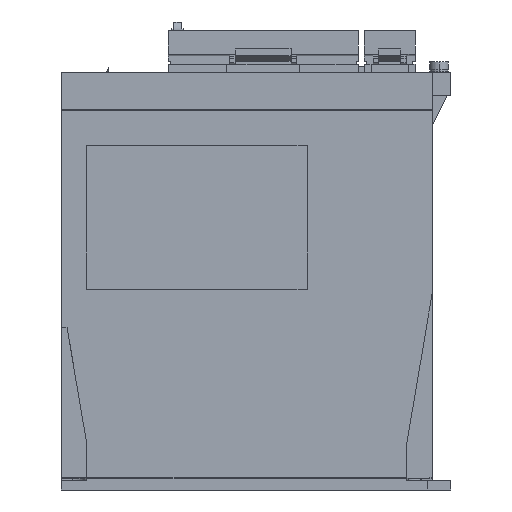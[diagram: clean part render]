
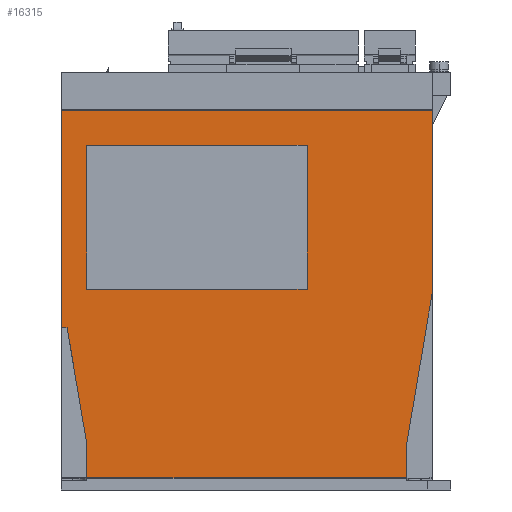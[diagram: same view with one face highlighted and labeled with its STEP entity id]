
A CAD part, left-side view. The second image highlights one B-rep face of the part: STEP entity #16315.
In plain terms, the highlighted planar face has unit normal (-1, 0, 0).
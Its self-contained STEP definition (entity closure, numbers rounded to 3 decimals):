
#13022 = VERTEX_POINT ( 'NONE', #40941 ) ;
#13050 = VERTEX_POINT ( 'NONE', #40966 ) ;
#13054 = EDGE_CURVE ( 'NONE', #13022, #13050, #41024, .T. ) ;
#16305 = VERTEX_POINT ( 'NONE', #46358 ) ;
#16315 = ADVANCED_FACE ( 'NONE', ( #46408, #46407 ), #46406, .F. ) ;
#16317 = EDGE_LOOP ( 'NONE', ( #16320, #16327, #16332, #16367 ) ) ;
#16320 = ORIENTED_EDGE ( 'NONE', *, *, #16322, .F. ) ;
#16322 = EDGE_CURVE ( 'NONE', #16323, #16325, #46391, .T. ) ;
#16323 = VERTEX_POINT ( 'NONE', #46387 ) ;
#16325 = VERTEX_POINT ( 'NONE', #46386 ) ;
#16327 = ORIENTED_EDGE ( 'NONE', *, *, #16328, .F. ) ;
#16328 = EDGE_CURVE ( 'NONE', #16330, #16323, #46385, .T. ) ;
#16330 = VERTEX_POINT ( 'NONE', #46381 ) ;
#16332 = ORIENTED_EDGE ( 'NONE', *, *, #16363, .F. ) ;
#16338 = VERTEX_POINT ( 'NONE', #46430 ) ;
#16341 = EDGE_CURVE ( 'NONE', #16338, #16343, #46429, .T. ) ;
#16343 = VERTEX_POINT ( 'NONE', #46425 ) ;
#16348 = ORIENTED_EDGE ( 'NONE', *, *, #16350, .T. ) ;
#16350 = EDGE_CURVE ( 'NONE', #16425, #16343, #46419, .T. ) ;
#16353 = ORIENTED_EDGE ( 'NONE', *, *, #16341, .F. ) ;
#16355 = ORIENTED_EDGE ( 'NONE', *, *, #16358, .F. ) ;
#16358 = EDGE_CURVE ( 'NONE', #13022, #16338, #46471, .T. ) ;
#16363 = EDGE_CURVE ( 'NONE', #16365, #16330, #46456, .T. ) ;
#16365 = VERTEX_POINT ( 'NONE', #46452 ) ;
#16367 = ORIENTED_EDGE ( 'NONE', *, *, #16370, .F. ) ;
#16370 = EDGE_CURVE ( 'NONE', #16325, #16365, #46507, .T. ) ;
#16371 = EDGE_LOOP ( 'NONE', ( #16373, #16375, #16381, #16386, #16416, #16422, #16348, #16353, #16355 ) ) ;
#16373 = ORIENTED_EDGE ( 'NONE', *, *, #13054, .T. ) ;
#16375 = ORIENTED_EDGE ( 'NONE', *, *, #16377, .T. ) ;
#16377 = EDGE_CURVE ( 'NONE', #13050, #16379, #46503, .T. ) ;
#16379 = VERTEX_POINT ( 'NONE', #46495 ) ;
#16381 = ORIENTED_EDGE ( 'NONE', *, *, #16383, .F. ) ;
#16383 = EDGE_CURVE ( 'NONE', #16385, #16379, #46488, .T. ) ;
#16385 = VERTEX_POINT ( 'NONE', #46484 ) ;
#16386 = ORIENTED_EDGE ( 'NONE', *, *, #16388, .T. ) ;
#16388 = EDGE_CURVE ( 'NONE', #16385, #16305, #46483, .T. ) ;
#16416 = ORIENTED_EDGE ( 'NONE', *, *, #16418, .T. ) ;
#16418 = EDGE_CURVE ( 'NONE', #16305, #16419, #46562, .T. ) ;
#16419 = VERTEX_POINT ( 'NONE', #46558 ) ;
#16422 = ORIENTED_EDGE ( 'NONE', *, *, #16424, .F. ) ;
#16424 = EDGE_CURVE ( 'NONE', #16425, #16419, #46551, .T. ) ;
#16425 = VERTEX_POINT ( 'NONE', #46547 ) ;
#40941 = CARTESIAN_POINT ( 'NONE',  ( -6., 5., 163.8 ) ) ;
#40966 = CARTESIAN_POINT ( 'NONE',  ( -6., 5., 70. ) ) ;
#41021 = DIRECTION ( 'NONE',  ( 0., 0., -1. ) ) ;
#41022 = VECTOR ( 'NONE', #41021, 1000. ) ;
#41023 = CARTESIAN_POINT ( 'NONE',  ( -6., 5., 338.642 ) ) ;
#41024 = LINE ( 'NONE', #41023, #41022 ) ;
#46358 = CARTESIAN_POINT ( 'NONE',  ( -6., -6., 5.2 ) ) ;
#46381 = CARTESIAN_POINT ( 'NONE',  ( -6., -6., 86.6 ) ) ;
#46382 = DIRECTION ( 'NONE',  ( 0., -1., 0. ) ) ;
#46383 = VECTOR ( 'NONE', #46382, 1000. ) ;
#46384 = CARTESIAN_POINT ( 'NONE',  ( -6., -6., 86.6 ) ) ;
#46385 = LINE ( 'NONE', #46384, #46383 ) ;
#46386 = CARTESIAN_POINT ( 'NONE',  ( -6., -101., 148.6 ) ) ;
#46387 = CARTESIAN_POINT ( 'NONE',  ( -6., -101., 86.6 ) ) ;
#46388 = DIRECTION ( 'NONE',  ( 0., 0., 1. ) ) ;
#46389 = VECTOR ( 'NONE', #46388, 1000. ) ;
#46390 = CARTESIAN_POINT ( 'NONE',  ( -6., -101., 86.6 ) ) ;
#46391 = LINE ( 'NONE', #46390, #46389 ) ;
#46402 = DIRECTION ( 'NONE',  ( 0., 1., 0. ) ) ;
#46403 = DIRECTION ( 'NONE',  ( 1., 0., 0. ) ) ;
#46404 = CARTESIAN_POINT ( 'NONE',  ( -6., 5., 338.642 ) ) ;
#46405 = AXIS2_PLACEMENT_3D ( 'NONE', #46404, #46403, #46402 ) ;
#46406 = PLANE ( 'NONE',  #46405 ) ;
#46407 = FACE_OUTER_BOUND ( 'NONE', #16371, .T. ) ;
#46408 = FACE_BOUND ( 'NONE', #16317, .T. ) ;
#46416 = DIRECTION ( 'NONE',  ( 0., -0.167, 0.986 ) ) ;
#46417 = VECTOR ( 'NONE', #46416, 1000. ) ;
#46418 = CARTESIAN_POINT ( 'NONE',  ( -6., -144., 20. ) ) ;
#46419 = LINE ( 'NONE', #46418, #46417 ) ;
#46425 = CARTESIAN_POINT ( 'NONE',  ( -6., -155., 85. ) ) ;
#46426 = DIRECTION ( 'NONE',  ( 0., 0., -1. ) ) ;
#46427 = VECTOR ( 'NONE', #46426, 1000. ) ;
#46428 = CARTESIAN_POINT ( 'NONE',  ( -6., -155., 338.642 ) ) ;
#46429 = LINE ( 'NONE', #46428, #46427 ) ;
#46430 = CARTESIAN_POINT ( 'NONE',  ( -6., -155., 163.8 ) ) ;
#46452 = CARTESIAN_POINT ( 'NONE',  ( -6., -6., 148.6 ) ) ;
#46453 = DIRECTION ( 'NONE',  ( 0., 0., -1. ) ) ;
#46454 = VECTOR ( 'NONE', #46453, 1000. ) ;
#46455 = CARTESIAN_POINT ( 'NONE',  ( -6., -6., 86.6 ) ) ;
#46456 = LINE ( 'NONE', #46455, #46454 ) ;
#46468 = DIRECTION ( 'NONE',  ( 0., -1., 0. ) ) ;
#46469 = VECTOR ( 'NONE', #46468, 1000. ) ;
#46470 = CARTESIAN_POINT ( 'NONE',  ( -6., 5., 163.8 ) ) ;
#46471 = LINE ( 'NONE', #46470, #46469 ) ;
#46480 = DIRECTION ( 'NONE',  ( 0., 0., -1. ) ) ;
#46481 = VECTOR ( 'NONE', #46480, 1000. ) ;
#46482 = CARTESIAN_POINT ( 'NONE',  ( -6., -6., 20. ) ) ;
#46483 = LINE ( 'NONE', #46482, #46481 ) ;
#46484 = CARTESIAN_POINT ( 'NONE',  ( -6., -6., 20. ) ) ;
#46485 = DIRECTION ( 'NONE',  ( 0., 0.167, 0.986 ) ) ;
#46486 = VECTOR ( 'NONE', #46485, 1000. ) ;
#46487 = CARTESIAN_POINT ( 'NONE',  ( -6., -6., 20. ) ) ;
#46488 = LINE ( 'NONE', #46487, #46486 ) ;
#46495 = CARTESIAN_POINT ( 'NONE',  ( -6., 2.462, 70. ) ) ;
#46500 = DIRECTION ( 'NONE',  ( 0., -1., 0. ) ) ;
#46501 = VECTOR ( 'NONE', #46500, 1000. ) ;
#46502 = CARTESIAN_POINT ( 'NONE',  ( -6., 5., 70. ) ) ;
#46503 = LINE ( 'NONE', #46502, #46501 ) ;
#46504 = DIRECTION ( 'NONE',  ( 0., 1., 0. ) ) ;
#46505 = VECTOR ( 'NONE', #46504, 1000. ) ;
#46506 = CARTESIAN_POINT ( 'NONE',  ( -6., -6., 148.6 ) ) ;
#46507 = LINE ( 'NONE', #46506, #46505 ) ;
#46547 = CARTESIAN_POINT ( 'NONE',  ( -6., -144., 20. ) ) ;
#46548 = DIRECTION ( 'NONE',  ( 0., 0., -1. ) ) ;
#46549 = VECTOR ( 'NONE', #46548, 1000. ) ;
#46550 = CARTESIAN_POINT ( 'NONE',  ( -6., -144., 20. ) ) ;
#46551 = LINE ( 'NONE', #46550, #46549 ) ;
#46558 = CARTESIAN_POINT ( 'NONE',  ( -6., -144., 5.2 ) ) ;
#46559 = DIRECTION ( 'NONE',  ( 0., -1., 0. ) ) ;
#46560 = VECTOR ( 'NONE', #46559, 1000. ) ;
#46561 = CARTESIAN_POINT ( 'NONE',  ( -6., -6., 5.2 ) ) ;
#46562 = LINE ( 'NONE', #46561, #46560 ) ;
